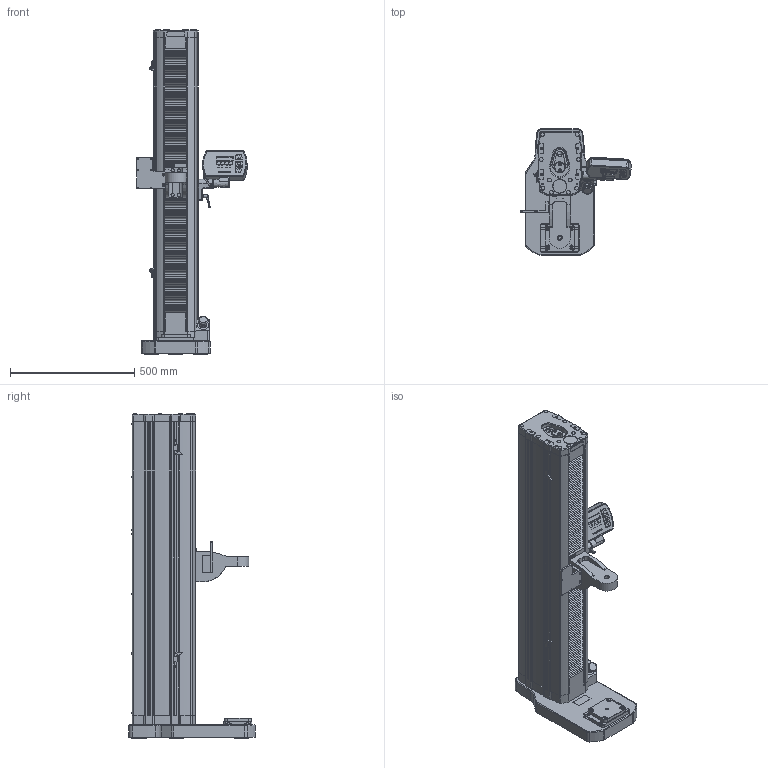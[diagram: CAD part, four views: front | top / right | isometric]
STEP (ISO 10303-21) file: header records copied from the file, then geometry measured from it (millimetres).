
FILE_DESCRIPTION((''),'2;1');
FILE_NAME('F:\CAD files\Itr\3D MARKETING MODELS\MOTORIZED TEST STANDS\ESM1500LC\ESM1500LC.stp','2017-04-19T11:57:14',('mlampen'),(''),'Autodesk Inventor 2010','Autodesk Inventor 2010','');
FILE_SCHEMA(('AUTOMOTIVE_DESIGN { 1 0 10303 214 1 1 1 1 }'));
Length unit declared in the file: inch
Products named in the file (4): Assembly1; Part2; Part4; Part6
Assembly tree (3 placements, depth 2):
  Assembly1
    Part2
    Part4
    Part6
Bounding box: 445 x 508 x 1305.45 mm (x, y, z)
Volume: 61074641.8 mm3; surface area: 2250419.1 mm2
Topology: 26 solids, 34 shells, 6767 faces, 17643 edges, 11411 vertices
Faces by surface type: plane 3541, cylinder 1359, bspline 1351, cone 342, torus 136, sphere 38
Full cylindrical faces by diameter (mm): 0.4 x1, 0.6 x1, 1.015 x2, 1.2 x9, 1.55 x8, 1.797 x2, 2 x4, 2.13 x1, 2.261 x2, 2.84 x2, 2.845 x16, 3.048 x14, 3.175 x4, 3.302 x4, 3.328 x1, 3.429 x14, 3.81 x10, 4.166 x2, 4.826 x2, 5.105 x2, 5.131 x1, 5.41 x14, 5.5 x2, 5.563 x2, 6.35 x23, 6.858 x5, 7.366 x2, 7.925 x1, 7.937 x1, 7.938 x10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
Entity records: 218169 total; most frequent: CARTESIAN_POINT 56682, ORIENTED_EDGE 34052, DIRECTION 30453, EDGE_CURVE 17026, VECTOR 12699, LINE 12699, VERTEX_POINT 11196, AXIS2_PLACEMENT_3D 8877
